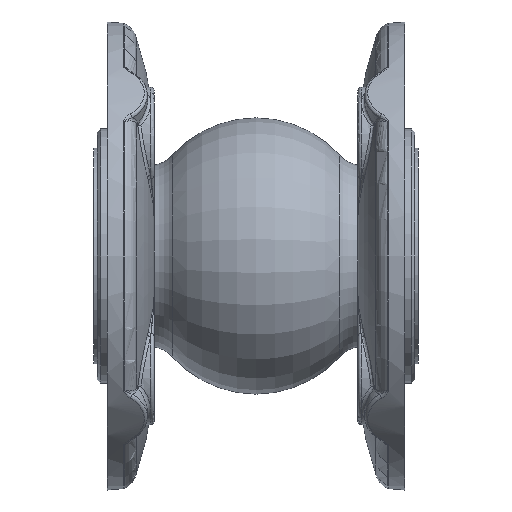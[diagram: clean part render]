
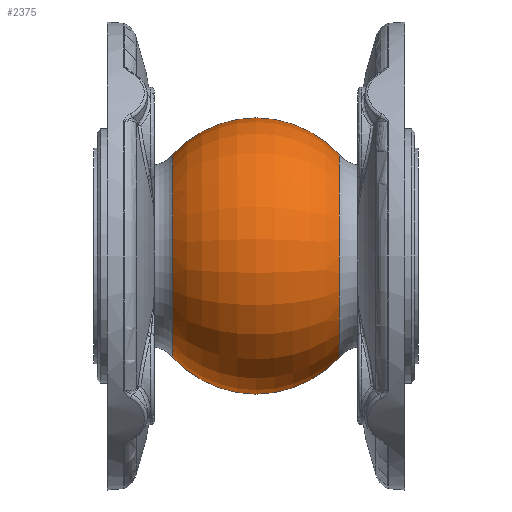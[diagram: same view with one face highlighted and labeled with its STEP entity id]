
A CAD part, left-side view. The second image highlights one B-rep face of the part: STEP entity #2375.
In plain terms, the highlighted toroidal (fillet/blend) face has major radius 7.75 mm and minor radius 33.568 mm.
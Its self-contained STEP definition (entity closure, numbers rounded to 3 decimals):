
#464 = DIRECTION ( 'NONE',  ( 0., -1., 0. ) ) ;
#1154 = CIRCLE ( 'NONE', #3916, 33.568 ) ;
#1477 = CARTESIAN_POINT ( 'NONE',  ( 0., 22.622, 30.286 ) ) ;
#1716 = VERTEX_POINT ( 'NONE', #2273 ) ;
#1953 = DIRECTION ( 'NONE',  ( 0., 0., 1. ) ) ;
#2099 = CARTESIAN_POINT ( 'NONE',  ( 0., 47.5, 7.75 ) ) ;
#2273 = CARTESIAN_POINT ( 'NONE',  ( 0., 72.378, 30.286 ) ) ;
#2375 = ADVANCED_FACE ( 'NONE', ( #3963 ), #4038, .T. ) ;
#2557 = ORIENTED_EDGE ( 'NONE', *, *, #6937, .T. ) ;
#2658 = CARTESIAN_POINT ( 'NONE',  ( 0., 72.378, -30.286 ) ) ;
#2881 = DIRECTION ( 'NONE',  ( -1., 0., 0. ) ) ;
#3032 = DIRECTION ( 'NONE',  ( 0., 0., -1. ) ) ;
#3164 = EDGE_CURVE ( 'NONE', #1716, #8333, #10384, .T. ) ;
#3174 = ORIENTED_EDGE ( 'NONE', *, *, #4626, .F. ) ;
#3478 = AXIS2_PLACEMENT_3D ( 'NONE', #2099, #10680, #9683 ) ;
#3494 = CARTESIAN_POINT ( 'NONE',  ( 0., 22.622, 0. ) ) ;
#3774 = DIRECTION ( 'NONE',  ( 0., -1., 0. ) ) ;
#3908 = ORIENTED_EDGE ( 'NONE', *, *, #3164, .T. ) ;
#3916 = AXIS2_PLACEMENT_3D ( 'NONE', #4740, #2881, #1953 ) ;
#3963 = FACE_OUTER_BOUND ( 'NONE', #9503, .T. ) ;
#4038 = TOROIDAL_SURFACE ( 'NONE', #8749, 7.75, 33.568 ) ;
#4626 = EDGE_CURVE ( 'NONE', #1716, #7591, #10959, .T. ) ;
#4740 = CARTESIAN_POINT ( 'NONE',  ( 0., 47.5, -7.75 ) ) ;
#5251 = EDGE_CURVE ( 'NONE', #7591, #9507, #9046, .T. ) ;
#6204 = DIRECTION ( 'NONE',  ( 0., 0., -1. ) ) ;
#6207 = DIRECTION ( 'NONE',  ( 0., 0., -1. ) ) ;
#6340 = CARTESIAN_POINT ( 'NONE',  ( 0., 22.622, -30.286 ) ) ;
#6937 = EDGE_CURVE ( 'NONE', #8333, #9507, #1154, .T. ) ;
#7591 = VERTEX_POINT ( 'NONE', #1477 ) ;
#7688 = AXIS2_PLACEMENT_3D ( 'NONE', #3494, #9905, #6207 ) ;
#8213 = AXIS2_PLACEMENT_3D ( 'NONE', #9960, #464, #6204 ) ;
#8333 = VERTEX_POINT ( 'NONE', #2658 ) ;
#8749 = AXIS2_PLACEMENT_3D ( 'NONE', #12201, #3774, #3032 ) ;
#9046 = CIRCLE ( 'NONE', #7688, 30.286 ) ;
#9503 = EDGE_LOOP ( 'NONE', ( #3174, #3908, #2557, #10876 ) ) ;
#9507 = VERTEX_POINT ( 'NONE', #6340 ) ;
#9683 = DIRECTION ( 'NONE',  ( 0., 0., -1. ) ) ;
#9905 = DIRECTION ( 'NONE',  ( 0., -1., 0. ) ) ;
#9960 = CARTESIAN_POINT ( 'NONE',  ( 0., 72.378, 0. ) ) ;
#10384 = CIRCLE ( 'NONE', #8213, 30.286 ) ;
#10680 = DIRECTION ( 'NONE',  ( 1., 0., 0. ) ) ;
#10876 = ORIENTED_EDGE ( 'NONE', *, *, #5251, .F. ) ;
#10959 = CIRCLE ( 'NONE', #3478, 33.568 ) ;
#12201 = CARTESIAN_POINT ( 'NONE',  ( 0., 47.5, 0. ) ) ;
